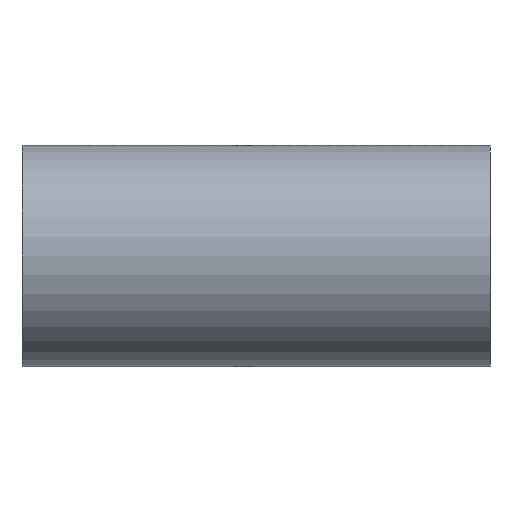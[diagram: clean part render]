
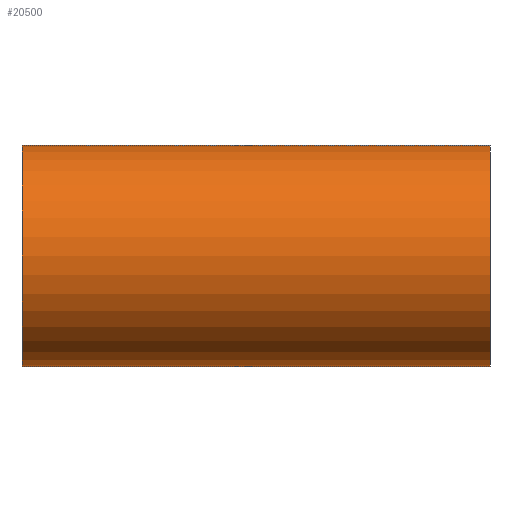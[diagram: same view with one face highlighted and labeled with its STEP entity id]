
A CAD part, front view. The second image highlights one B-rep face of the part: STEP entity #20500.
In plain terms, the highlighted cylindrical face has radius 215.9 mm (diameter 431.8 mm), a partial arc.
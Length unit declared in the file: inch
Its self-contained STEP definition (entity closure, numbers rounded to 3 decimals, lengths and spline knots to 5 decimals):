
#2209 = CIRCLE ( 'NONE', #39286, 8.5 ) ;
#2755 = DIRECTION ( 'NONE',  ( 0., 0., 1. ) ) ;
#3601 = EDGE_LOOP ( 'NONE', ( #44645, #21493, #38767, #43951 ) ) ;
#5387 = VERTEX_POINT ( 'NONE', #48960 ) ;
#7121 = DIRECTION ( 'NONE',  ( 1., 0., 0. ) ) ;
#8425 = CARTESIAN_POINT ( 'NONE',  ( 18., 0., 8.5 ) ) ;
#11045 = VERTEX_POINT ( 'NONE', #8425 ) ;
#12019 = EDGE_CURVE ( 'Defeatured_327392+Defeatured_327393+Defeatured_327393+Defeatured_327393', #5387, #11045, #47298, .T. ) ;
#12269 = LINE ( 'NONE', #37504, #18840 ) ;
#16258 = EDGE_CURVE ( 'NONE', #45017, #11045, #28689, .T. ) ;
#16297 = CARTESIAN_POINT ( 'NONE',  ( -18., 0., 8.5 ) ) ;
#16680 = DIRECTION ( 'NONE',  ( -1., 0., 0. ) ) ;
#17201 = VECTOR ( 'NONE', #24576, 39.37008 ) ;
#18287 = CARTESIAN_POINT ( 'NONE',  ( -18., 0., 8.5 ) ) ;
#18840 = VECTOR ( 'NONE', #29772, 39.37008 ) ;
#20500 = ADVANCED_FACE ( 'Defeatured_327392', ( #22890 ), #31372, .T. ) ;
#21493 = ORIENTED_EDGE ( 'NONE', *, *, #26993, .T. ) ;
#22890 = FACE_OUTER_BOUND ( 'NONE', #3601, .T. ) ;
#24576 = DIRECTION ( 'NONE',  ( 1., 0., 0. ) ) ;
#24713 = EDGE_CURVE ( 'Defeatured_327391+Defeatured_327392+Defeatured_327392+Defeatured_327392', #46430, #45017, #2209, .T. ) ;
#26993 = EDGE_CURVE ( 'NONE', #46430, #5387, #12269, .T. ) ;
#28689 = LINE ( 'NONE', #16297, #17201 ) ;
#29772 = DIRECTION ( 'NONE',  ( 1., 0., 0. ) ) ;
#31372 = CYLINDRICAL_SURFACE ( 'NONE', #49563, 8.5 ) ;
#32421 = DIRECTION ( 'NONE',  ( 0., 0., -1. ) ) ;
#33132 = CARTESIAN_POINT ( 'NONE',  ( 18., 0., 0. ) ) ;
#33894 = CARTESIAN_POINT ( 'NONE',  ( -18., 0., -8.5 ) ) ;
#35775 = CARTESIAN_POINT ( 'NONE',  ( -18., 0., 0. ) ) ;
#37504 = CARTESIAN_POINT ( 'NONE',  ( -18., 0., -8.5 ) ) ;
#38767 = ORIENTED_EDGE ( 'NONE', *, *, #12019, .T. ) ;
#39286 = AXIS2_PLACEMENT_3D ( 'NONE', #35775, #16680, #32421 ) ;
#41620 = DIRECTION ( 'NONE',  ( 0., 0., -1. ) ) ;
#43951 = ORIENTED_EDGE ( 'NONE', *, *, #16258, .F. ) ;
#44645 = ORIENTED_EDGE ( 'NONE', *, *, #24713, .F. ) ;
#45017 = VERTEX_POINT ( 'NONE', #18287 ) ;
#46430 = VERTEX_POINT ( 'NONE', #33894 ) ;
#46460 = AXIS2_PLACEMENT_3D ( 'NONE', #33132, #48594, #41620 ) ;
#47089 = CARTESIAN_POINT ( 'NONE',  ( -18., 0., 0. ) ) ;
#47298 = CIRCLE ( 'NONE', #46460, 8.5 ) ;
#48594 = DIRECTION ( 'NONE',  ( -1., 0., 0. ) ) ;
#48960 = CARTESIAN_POINT ( 'NONE',  ( 18., 0., -8.5 ) ) ;
#49563 = AXIS2_PLACEMENT_3D ( 'NONE', #47089, #7121, #2755 ) ;
